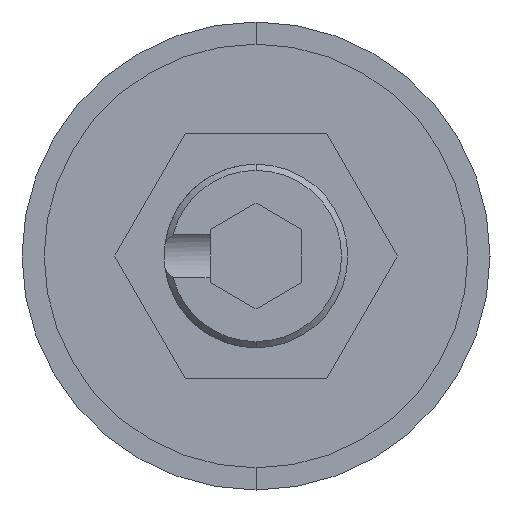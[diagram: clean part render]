
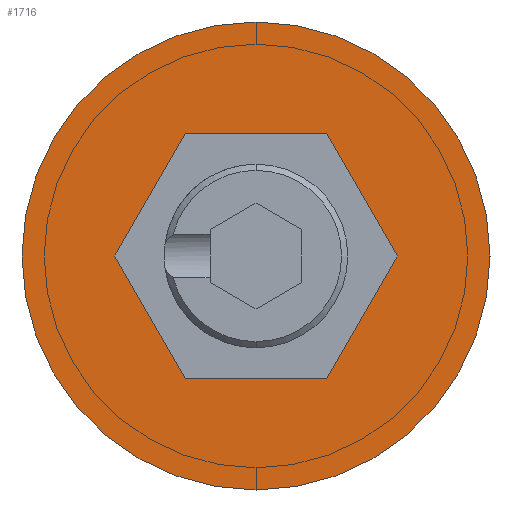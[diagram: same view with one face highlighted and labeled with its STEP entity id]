
A CAD part, front view. The second image highlights one B-rep face of the part: STEP entity #1716.
In plain terms, the highlighted planar face has unit normal (0, -1, 0).
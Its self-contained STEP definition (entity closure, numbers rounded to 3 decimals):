
#38 = ORIENTED_EDGE ( 'NONE', *, *, #997, .F. ) ;
#61 = DIRECTION ( 'NONE',  ( 1., 0., 0. ) ) ;
#68 = EDGE_LOOP ( 'NONE', ( #1595, #601, #1435, #38, #1649, #491 ) ) ;
#98 = VERTEX_POINT ( 'NONE', #1522 ) ;
#120 = LINE ( 'NONE', #523, #1334 ) ;
#138 = AXIS2_PLACEMENT_3D ( 'NONE', #1141, #1292, #1485 ) ;
#169 = EDGE_CURVE ( 'NONE', #1279, #1608, #1579, .T. ) ;
#233 = DIRECTION ( 'NONE',  ( -1., 0., 0. ) ) ;
#257 = DIRECTION ( 'NONE',  ( 0.5, 0., 0.866 ) ) ;
#355 = LINE ( 'NONE', #980, #1225 ) ;
#367 = CARTESIAN_POINT ( 'NONE',  ( -2.309, 0., -4. ) ) ;
#376 = CARTESIAN_POINT ( 'NONE',  ( -4.619, 0., 0. ) ) ;
#438 = LINE ( 'NONE', #1493, #835 ) ;
#491 = ORIENTED_EDGE ( 'NONE', *, *, #617, .F. ) ;
#523 = CARTESIAN_POINT ( 'NONE',  ( 2.309, 0., 4. ) ) ;
#536 = CARTESIAN_POINT ( 'NONE',  ( -4.619, 0., 0. ) ) ;
#589 = EDGE_CURVE ( 'NONE', #1608, #1697, #1290, .T. ) ;
#601 = ORIENTED_EDGE ( 'NONE', *, *, #589, .F. ) ;
#600 = CARTESIAN_POINT ( 'NONE',  ( -2.309, 0., 4. ) ) ;
#617 = EDGE_CURVE ( 'NONE', #819, #772, #786, .T. ) ;
#701 = FACE_BOUND ( 'NONE', #68, .T. ) ;
#741 = VECTOR ( 'NONE', #1167, 1000. ) ;
#772 = VERTEX_POINT ( 'NONE', #1028 ) ;
#786 = LINE ( 'NONE', #1044, #1586 ) ;
#819 = VERTEX_POINT ( 'NONE', #1448 ) ;
#835 = VECTOR ( 'NONE', #61, 1000. ) ;
#838 = PLANE ( 'NONE',  #1146 ) ;
#849 = CARTESIAN_POINT ( 'NONE',  ( 0., 0., 0. ) ) ;
#880 = EDGE_CURVE ( 'NONE', #1846, #1928, #1989, .T. ) ;
#980 = CARTESIAN_POINT ( 'NONE',  ( 4.619, 0., 0. ) ) ;
#997 = EDGE_CURVE ( 'NONE', #98, #1279, #120, .T. ) ;
#1028 = CARTESIAN_POINT ( 'NONE',  ( 4.619, 0., 0. ) ) ;
#1044 = CARTESIAN_POINT ( 'NONE',  ( 2.309, 0., -4. ) ) ;
#1063 = EDGE_CURVE ( 'NONE', #1697, #819, #438, .T. ) ;
#1073 = AXIS2_PLACEMENT_3D ( 'NONE', #1704, #1725, #1731 ) ;
#1141 = CARTESIAN_POINT ( 'NONE',  ( 0., 0., 0. ) ) ;
#1146 = AXIS2_PLACEMENT_3D ( 'NONE', #849, #1344, #1515 ) ;
#1167 = DIRECTION ( 'NONE',  ( -0.5, 0., -0.866 ) ) ;
#1225 = VECTOR ( 'NONE', #1538, 1000. ) ;
#1232 = DIRECTION ( 'NONE',  ( 0.5, 0., -0.866 ) ) ;
#1279 = VERTEX_POINT ( 'NONE', #600 ) ;
#1290 = LINE ( 'NONE', #376, #1752 ) ;
#1292 = DIRECTION ( 'NONE',  ( 0., -1., 0. ) ) ;
#1334 = VECTOR ( 'NONE', #233, 1000. ) ;
#1344 = DIRECTION ( 'NONE',  ( 0., -1., 0. ) ) ;
#1405 = EDGE_CURVE ( 'NONE', #1928, #1846, #1786, .T. ) ;
#1425 = ORIENTED_EDGE ( 'NONE', *, *, #880, .T. ) ;
#1435 = ORIENTED_EDGE ( 'NONE', *, *, #169, .F. ) ;
#1448 = CARTESIAN_POINT ( 'NONE',  ( 2.309, 0., -4. ) ) ;
#1460 = ORIENTED_EDGE ( 'NONE', *, *, #1405, .T. ) ;
#1485 = DIRECTION ( 'NONE',  ( 0., 0., -1. ) ) ;
#1493 = CARTESIAN_POINT ( 'NONE',  ( -2.309, 0., -4. ) ) ;
#1515 = DIRECTION ( 'NONE',  ( 0., 0., -1. ) ) ;
#1522 = CARTESIAN_POINT ( 'NONE',  ( 2.309, 0., 4. ) ) ;
#1538 = DIRECTION ( 'NONE',  ( -0.5, 0., 0.866 ) ) ;
#1579 = LINE ( 'NONE', #2032, #741 ) ;
#1586 = VECTOR ( 'NONE', #257, 1000. ) ;
#1591 = EDGE_LOOP ( 'NONE', ( #1425, #1460 ) ) ;
#1595 = ORIENTED_EDGE ( 'NONE', *, *, #1063, .F. ) ;
#1600 = FACE_OUTER_BOUND ( 'NONE', #1591, .T. ) ;
#1608 = VERTEX_POINT ( 'NONE', #536 ) ;
#1649 = ORIENTED_EDGE ( 'NONE', *, *, #1955, .F. ) ;
#1697 = VERTEX_POINT ( 'NONE', #367 ) ;
#1704 = CARTESIAN_POINT ( 'NONE',  ( 0., 0., 0. ) ) ;
#1716 = ADVANCED_FACE ( 'NONE', ( #701, #1600 ), #838, .T. ) ;
#1725 = DIRECTION ( 'NONE',  ( 0., -1., 0. ) ) ;
#1731 = DIRECTION ( 'NONE',  ( 0., 0., -1. ) ) ;
#1752 = VECTOR ( 'NONE', #1232, 1000. ) ;
#1786 = CIRCLE ( 'NONE', #138, 7.65 ) ;
#1846 = VERTEX_POINT ( 'NONE', #1932 ) ;
#1867 = CARTESIAN_POINT ( 'NONE',  ( 0., 0., 7.65 ) ) ;
#1928 = VERTEX_POINT ( 'NONE', #1867 ) ;
#1932 = CARTESIAN_POINT ( 'NONE',  ( 0., 0., -7.65 ) ) ;
#1955 = EDGE_CURVE ( 'NONE', #772, #98, #355, .T. ) ;
#1989 = CIRCLE ( 'NONE', #1073, 7.65 ) ;
#2032 = CARTESIAN_POINT ( 'NONE',  ( -2.309, 0., 4. ) ) ;
